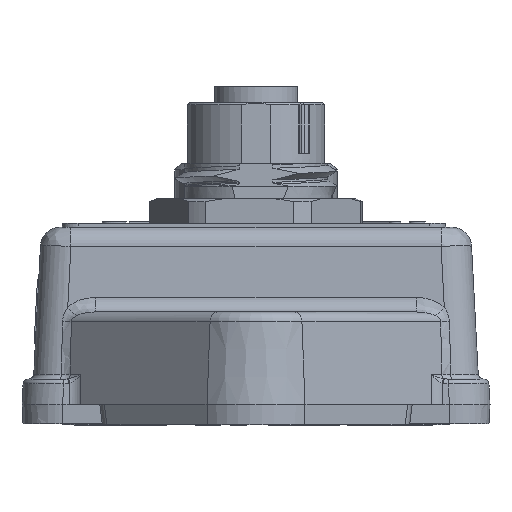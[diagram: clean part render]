
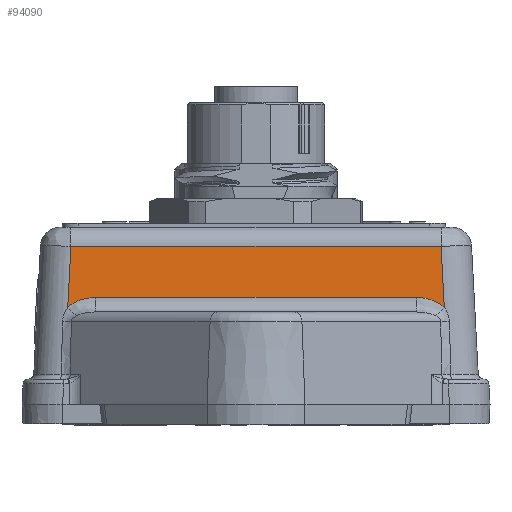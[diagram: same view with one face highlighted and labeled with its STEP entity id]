
A CAD part, left-side view. The second image highlights one B-rep face of the part: STEP entity #94090.
In plain terms, the highlighted planar face has unit normal (-0.999, 0, 0.052).
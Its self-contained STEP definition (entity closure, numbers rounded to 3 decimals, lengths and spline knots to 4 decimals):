
#253=ELLIPSE('',#98533,0.1396,0.0984);
#254=ELLIPSE('',#98537,0.1396,0.0984);
#9043=FACE_OUTER_BOUND('',#14336,.T.);
#14336=EDGE_LOOP('',(#72226,#72227,#72228,#72229,#72230,#72231));
#22142=LINE('',#148855,#31421);
#22169=LINE('',#148974,#31448);
#22171=LINE('',#149067,#31450);
#22172=LINE('',#149068,#31451);
#31421=VECTOR('',#110665,0.3937);
#31448=VECTOR('',#110754,0.3937);
#31450=VECTOR('',#110770,0.3937);
#31451=VECTOR('',#110771,0.3937);
#40440=VERTEX_POINT('',#148849);
#40441=VERTEX_POINT('',#148854);
#40464=VERTEX_POINT('',#148967);
#40466=VERTEX_POINT('',#148972);
#40468=VERTEX_POINT('',#148997);
#40470=VERTEX_POINT('',#149066);
#51652=EDGE_CURVE('',#40440,#40441,#22142,.T.);
#51694=EDGE_CURVE('',#40464,#40440,#253,.T.);
#51696=EDGE_CURVE('',#40466,#40464,#22169,.T.);
#51699=EDGE_CURVE('',#40468,#40466,#254,.T.);
#51706=EDGE_CURVE('',#40470,#40468,#22171,.T.);
#51707=EDGE_CURVE('',#40441,#40470,#22172,.T.);
#72226=ORIENTED_EDGE('',*,*,#51694,.F.);
#72227=ORIENTED_EDGE('',*,*,#51696,.F.);
#72228=ORIENTED_EDGE('',*,*,#51699,.F.);
#72229=ORIENTED_EDGE('',*,*,#51706,.F.);
#72230=ORIENTED_EDGE('',*,*,#51707,.F.);
#72231=ORIENTED_EDGE('',*,*,#51652,.F.);
#84859=PLANE('',#98542);
#94090=ADVANCED_FACE('',(#9043),#84859,.T.);
#98533=AXIS2_PLACEMENT_3D('',#148969,#110748,#110749);
#98537=AXIS2_PLACEMENT_3D('',#148999,#110758,#110759);
#98542=AXIS2_PLACEMENT_3D('',#149065,#110768,#110769);
#110665=DIRECTION('',(0.052,-0.052,0.997));
#110748=DIRECTION('center_axis',(-0.999,0.,
0.052));
#110749=DIRECTION('ref_axis',(0.003,0.999,0.052));
#110754=DIRECTION('',(0.,1.,0.));
#110758=DIRECTION('center_axis',(-0.999,0.,
0.052));
#110759=DIRECTION('ref_axis',(0.003,-0.999,0.052));
#110768=DIRECTION('center_axis',(-0.999,0.,
0.052));
#110769=DIRECTION('ref_axis',(0.,-1.,0.));
#110770=DIRECTION('',(-0.052,-0.052,-0.997));
#110771=DIRECTION('',(0.,-1.,0.));
#148849=CARTESIAN_POINT('',(-1.4493,0.7293,0.0677));
#148854=CARTESIAN_POINT('',(-1.4369,0.7169,0.3043));
#148855=CARTESIAN_POINT('',(-1.467,0.747,-0.2695));
#148967=CARTESIAN_POINT('',(-1.4473,0.6211,0.1059));
#148969=CARTESIAN_POINT('Origin',(-1.4524,0.6159,0.0075));
#148972=CARTESIAN_POINT('',(-1.4473,-0.6211,0.1059));
#148974=CARTESIAN_POINT('',(-1.4473,-0.4335,0.1059));
#148997=CARTESIAN_POINT('',(-1.4493,-0.7293,0.0677));
#148999=CARTESIAN_POINT('Origin',(-1.4524,-0.6159,
0.0075));
#149065=CARTESIAN_POINT('Origin',(-1.469,-0.867,-0.3086));
#149066=CARTESIAN_POINT('',(-1.4369,-0.7169,0.3043));
#149067=CARTESIAN_POINT('',(-1.4653,-0.7454,-0.2382));
#149068=CARTESIAN_POINT('',(-1.4369,-0.4335,0.3043));
